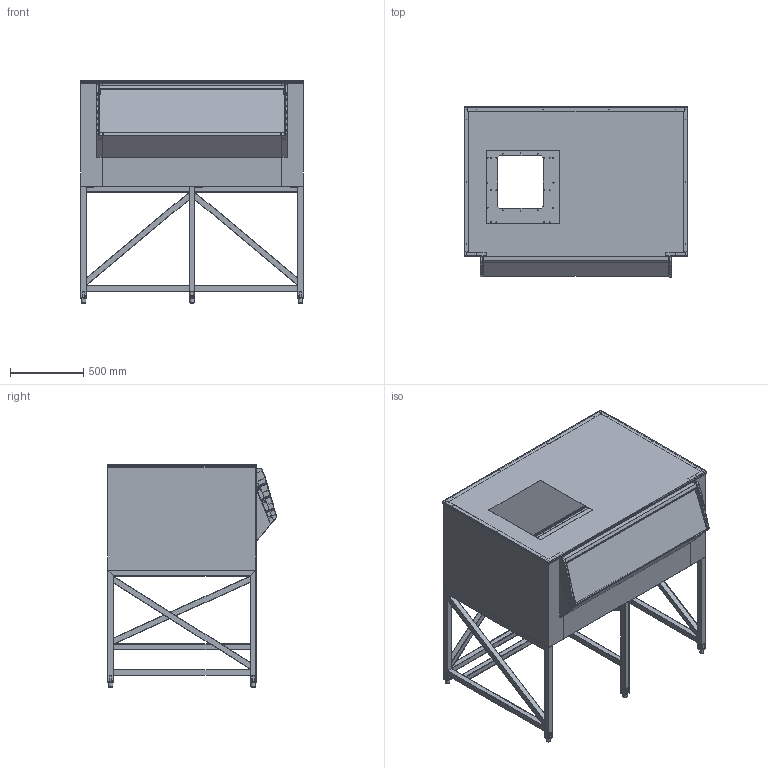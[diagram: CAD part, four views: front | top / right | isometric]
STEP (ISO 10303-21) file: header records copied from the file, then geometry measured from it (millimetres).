
FILE_DESCRIPTION(/* description */ ('Unknown'),/* implementation_level */ '2;1');
FILE_NAME(/* name */ 'SCD400',/* time_stamp */ '2018-04-24T11:51:48+02:00',/* author */ ('Unknown'),/* organization */ ('Unknown'),/* preprocessor_version */ 'ST-DEVELOPER v16.7',/* originating_system */ 'DEX',/* authorisation */ $);
FILE_SCHEMA (('CONFIG_CONTROL_DESIGN'));
Products named in the file (45): SCD400; SILO_SDC400_oa_0; 42-92+SC400_oa_1; 42-91+SC400_oa_2; 42-30+SC400_oa_3; 42-32+8759; 42-32+8760; 42-101+8763; 42-33+8761; 42-104_oa_4; 42-31+8877; 42-47+8750; 42-96+8882_oa_5; 42-84+8758; 42-35+8753; 42-46+8865; 42-36+8734; 42-46+8864; 42-102+8979; 42-102+8978; 42-67_oa_6; tubo 40x40x1.5_oa_7; tubo 40x40x1.5_oa_8; tubo 40x40x1.5_oa_9; tubo 40x40x1.5_oa_10; tubo 40x40x1.5_oa_11; tubo 40x40x1.5_oa_12; 42-67+pletina2; tubo 40x40x1.5_oa_13; tubo 40x40x1.5_oa_14; tubo 40x40x1.5_oa_15; tubo 40x40x1.5_oa_16; tubo 40x40x1.5_oa_17; tubo 40x40x1.5_oa_18; tubo 40x40x1.5_oa_19; tubo 40x40x1.5_oa_20; tubo 40x40x1.5_oa_21; tubo 40x40x1.5_oa_22; tubo 40x40x1.5_oa_23; tubo 40x40x1.5_oa_24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
Assembly tree (54 placements, depth 7):
  SCD400
    SILO_SDC400_oa_0
      42-92+SC400_oa_1
        42-91+SC400_oa_2
          42-30+SC400_oa_3
            42-32+8759
            42-32+8760
            42-101+8763
            42-33+8761
            42-104_oa_4
              42-31+8877
        42-47+8750
        42-96+8882_oa_5
          42-84+8758
        42-35+8753
        42-46+8865
        42-36+8734
        42-46+8864
        42-102+8979
        42-102+8978
    42-67_oa_6
      tubo 40x40x1.5_oa_7
      tubo 40x40x1.5_oa_8
      tubo 40x40x1.5_oa_9
      tubo 40x40x1.5_oa_10
      tubo 40x40x1.5_oa_11
      tubo 40x40x1.5_oa_12
      42-67+pletina2  x6
      tubo 40x40x1.5_oa_13
      tubo 40x40x1.5_oa_14
      tubo 40x40x1.5_oa_15
      tubo 40x40x1.5_oa_16
      tubo 40x40x1.5_oa_17
      tubo 40x40x1.5_oa_18
      tubo 40x40x1.5_oa_19
      tubo 40x40x1.5_oa_20
      tubo 40x40x1.5_oa_21
      tubo 40x40x1.5_oa_22
      tubo 40x40x1.5_oa_23
      tubo 40x40x1.5_oa_24
      tubo 40x40x1.5_oa_25
      tubo 40x40x1.5_oa_26
      tubo 40x40x1.5_oa_27
    42-155_oa_28
    30138+pata_reg_inox_tubo_40x40  x6
Bounding box: 1532.2 x 1162.9 x 1520 mm (x, y, z)
Volume: 11089319.7 mm3; surface area: 21685737.7 mm2
Topology: 46 solids, 46 shells, 3781 faces, 10207 edges, 6353 vertices
Faces by surface type: plane 1833, cylinder 1302, bspline 312, cone 160, sphere 152, torus 22
Full cylindrical faces by diameter (mm): 2.7 x18, 3.5 x30, 4 x8, 4.2 x66, 5 x48, 6 x2, 12 x10, 22 x5, 26 x6, 30 x6
Entity records: 104879 total; most frequent: CARTESIAN_POINT 24006, ORIENTED_EDGE 16428, DIRECTION 16131, EDGE_CURVE 8214, AXIS2_PLACEMENT_3D 5488, VERTEX_POINT 5313, LINE 5155, VECTOR 5155
